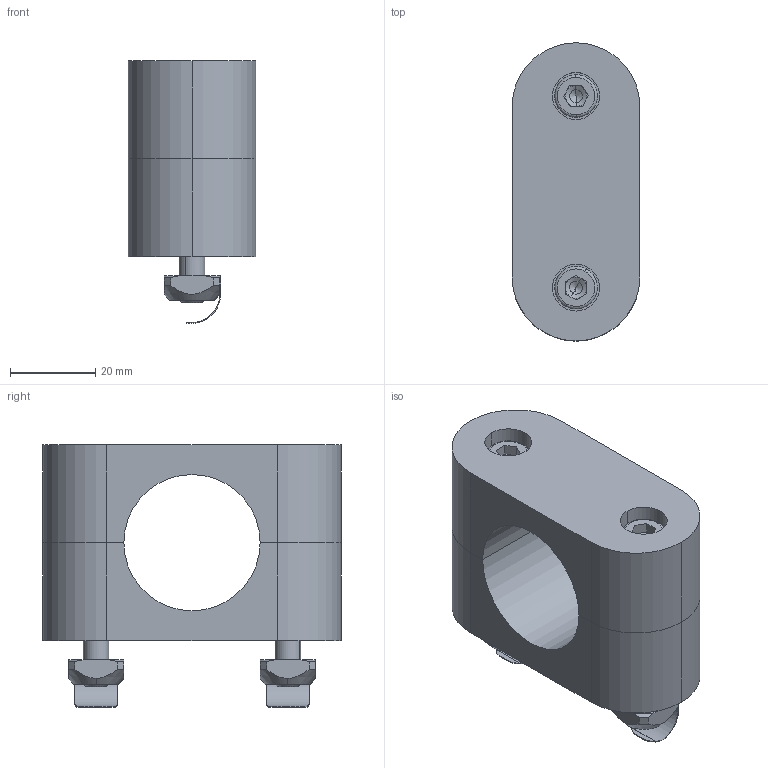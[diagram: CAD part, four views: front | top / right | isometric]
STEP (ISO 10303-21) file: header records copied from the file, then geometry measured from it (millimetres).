
FILE_DESCRIPTION (( 'STEP AP214' ), '1' );
FILE_NAME ('1.3048 Kiinnike kahvaprofiilille 32.STEP', '2025-09-09T09:15:47', ( '' ), ( '' ), 'SwSTEP 2.0', 'SolidWorks 2025', '' );
FILE_SCHEMA (( 'AUTOMOTIVE_DESIGN' ));
Length unit declared in the file: millimetre
Products named in the file (1): 1.3048 Kiinnike kahvaprofiilille 32
Bounding box: 30 x 70 x 61.65 mm (x, y, z)
Volume: 63601.7 mm3; surface area: 21341.8 mm2
Topology: 6 solids, 6 shells, 172 faces, 404 edges, 248 vertices
Faces by surface type: plane 86, cylinder 50, cone 28, torus 8
Entity records: 7070 total; most frequent: CARTESIAN_POINT 1151, DIRECTION 840, ORIENTED_EDGE 800, EDGE_CURVE 400, AXIS2_PLACEMENT_3D 321, VERTEX_POINT 248, LINE 198, VECTOR 198
